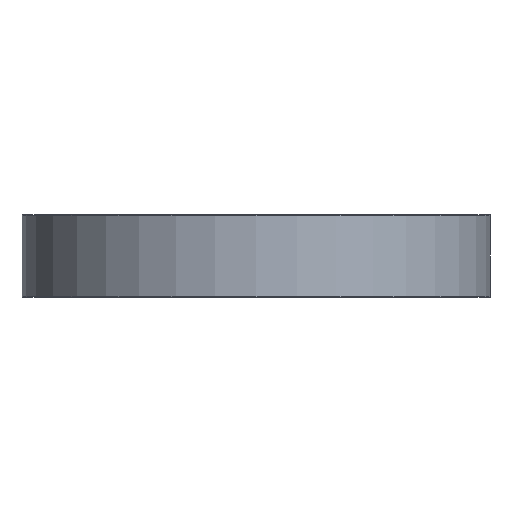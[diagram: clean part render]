
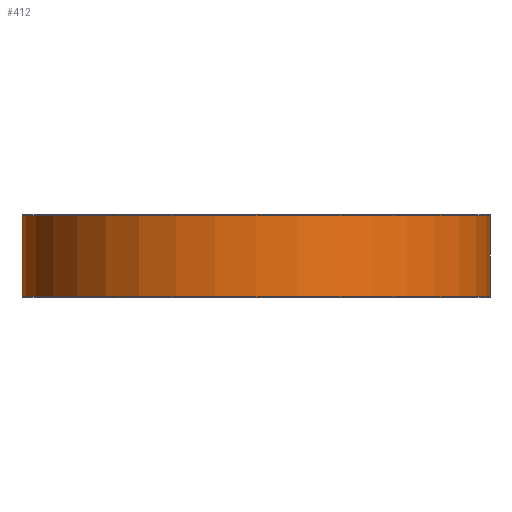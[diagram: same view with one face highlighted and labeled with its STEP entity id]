
A CAD part, left-side view. The second image highlights one B-rep face of the part: STEP entity #412.
In plain terms, the highlighted cylindrical face has radius 13.576 mm (diameter 27.152 mm), a partial arc.
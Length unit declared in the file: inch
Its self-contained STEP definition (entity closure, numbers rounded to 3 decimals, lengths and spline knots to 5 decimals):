
#49=CARTESIAN_POINT('',(-0.816,0.,0.09375));
#50=DIRECTION('',(0.,0.,-1.));
#51=DIRECTION('',(0.,-1.,0.));
#52=AXIS2_PLACEMENT_3D('',#49,#50,#51);
#82=DIRECTION('',(0.,0.,1.));
#83=VECTOR('',#82,0.1875);
#84=CARTESIAN_POINT('',(-0.816,-0.53448,-0.09375));
#85=LINE('',#84,#83);
#86=CARTESIAN_POINT('',(-0.816,0.,-0.09375));
#87=DIRECTION('',(0.,0.,-1.));
#88=DIRECTION('',(0.,-1.,0.));
#89=AXIS2_PLACEMENT_3D('',#86,#87,#88);
#91=DIRECTION('',(0.,0.,1.));
#92=VECTOR('',#91,0.1875);
#93=CARTESIAN_POINT('',(-0.816,0.53448,-0.09375));
#94=LINE('',#93,#92);
#209=CARTESIAN_POINT('',(-0.816,0.53448,-0.09375));
#210=CARTESIAN_POINT('',(-0.816,0.53448,0.09375));
#211=VERTEX_POINT('',#209);
#212=VERTEX_POINT('',#210);
#233=CARTESIAN_POINT('',(-0.816,-0.53448,-0.09375));
#234=CARTESIAN_POINT('',(-0.816,-0.53448,0.09375));
#235=VERTEX_POINT('',#233);
#236=VERTEX_POINT('',#234);
#399=CARTESIAN_POINT('',(-0.816,0.,1.));
#400=DIRECTION('',(0.,0.,-1.));
#401=DIRECTION('',(0.,1.,0.));
#402=AXIS2_PLACEMENT_3D('',#399,#400,#401);
#403=CYLINDRICAL_SURFACE('',#402,0.53448);
#405=ORIENTED_EDGE('',*,*,#404,.F.);
#407=ORIENTED_EDGE('',*,*,#406,.T.);
#408=ORIENTED_EDGE('',*,*,#389,.T.);
#409=ORIENTED_EDGE('',*,*,#358,.F.);
#410=EDGE_LOOP('',(#405,#407,#408,#409));
#411=FACE_OUTER_BOUND('',#410,.F.);
#412=ADVANCED_FACE('',(#411),#403,.T.);
#53=CIRCLE('',#52,0.53448);
#90=CIRCLE('',#89,0.53448);
#358=EDGE_CURVE('',#236,#212,#53,.T.);
#389=EDGE_CURVE('',#211,#212,#94,.T.);
#404=EDGE_CURVE('',#235,#236,#85,.T.);
#406=EDGE_CURVE('',#235,#211,#90,.T.);
